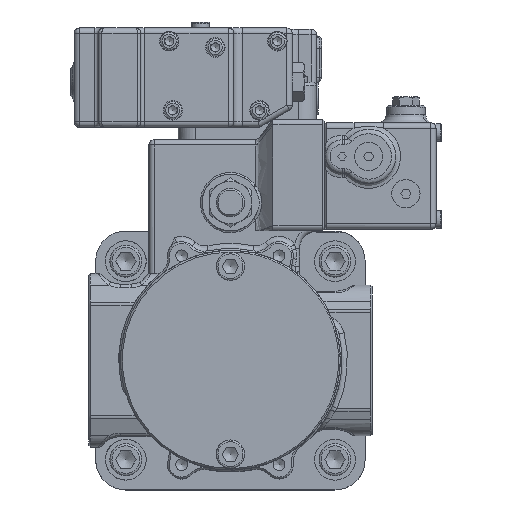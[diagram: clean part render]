
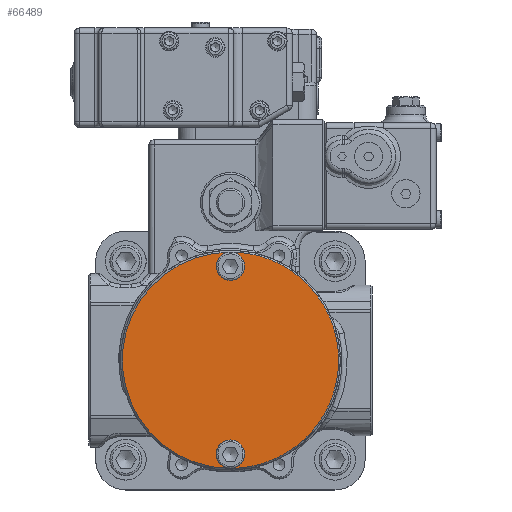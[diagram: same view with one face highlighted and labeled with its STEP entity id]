
A CAD part, top view. The second image highlights one B-rep face of the part: STEP entity #66489.
In plain terms, the highlighted planar face has unit normal (0, 0, 1).
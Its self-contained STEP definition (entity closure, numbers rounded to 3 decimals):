
#20996=CARTESIAN_POINT('',(0.,61.,258.7));
#20997=VERTEX_POINT('',#20996);
#20998=CARTESIAN_POINT('',(0.,53.,258.7));
#20999=DIRECTION('',(0.0,0.0,-1.0));
#21000=DIRECTION('',(0.0,1.0,0.0));
#21001=AXIS2_PLACEMENT_3D('',#20998,#20999,#21000);
#21002=CIRCLE('',#21001,8.);
#21003=EDGE_CURVE('',#20997,#20997,#21002,.T.);
#66380=CARTESIAN_POINT('',(0.,-61.,258.7));
#66381=VERTEX_POINT('',#66380);
#66382=CARTESIAN_POINT('',(0.,0.,258.7));
#66383=DIRECTION('',(0.0,0.0,-1.0));
#66384=DIRECTION('',(-1.0,0.0,0.0));
#66385=AXIS2_PLACEMENT_3D('',#66382,#66383,#66384);
#66386=CIRCLE('',#66385,61.0);
#66387=EDGE_CURVE('',#20997,#66381,#66386,.T.);
#66389=CARTESIAN_POINT('',(0.,0.,258.7));
#66390=DIRECTION('',(0.0,0.0,-1.0));
#66391=DIRECTION('',(-1.0,0.0,0.0));
#66392=AXIS2_PLACEMENT_3D('',#66389,#66390,#66391);
#66393=CIRCLE('',#66392,61.0);
#66394=EDGE_CURVE('',#66381,#20997,#66393,.T.);
#66472=CARTESIAN_POINT('',(0.,0.,258.7));
#66473=DIRECTION('',(0.0,0.0,-1.0));
#66474=DIRECTION('',(-1.0,0.0,0.0));
#66475=AXIS2_PLACEMENT_3D('',#66472,#66473,#66474);
#66476=PLANE('',#66475);
#66477=ORIENTED_EDGE('',*,*,#66387,.F.);
#66478=ORIENTED_EDGE('',*,*,#21003,.T.);
#66479=ORIENTED_EDGE('',*,*,#66394,.F.);
#66480=CARTESIAN_POINT('',(0.,-53.,258.7));
#66481=DIRECTION('',(0.0,0.0,-1.0));
#66482=DIRECTION('',(0.0,1.0,0.0));
#66483=AXIS2_PLACEMENT_3D('',#66480,#66481,#66482);
#66484=CIRCLE('',#66483,8.);
#66485=EDGE_CURVE('',#66381,#66381,#66484,.T.);
#66486=ORIENTED_EDGE('',*,*,#66485,.T.);
#66487=EDGE_LOOP('',(#66477,#66478,#66479,#66486));
#66488=FACE_OUTER_BOUND('',#66487,.T.);
#66489=ADVANCED_FACE('',(#66488),#66476,.F.);
